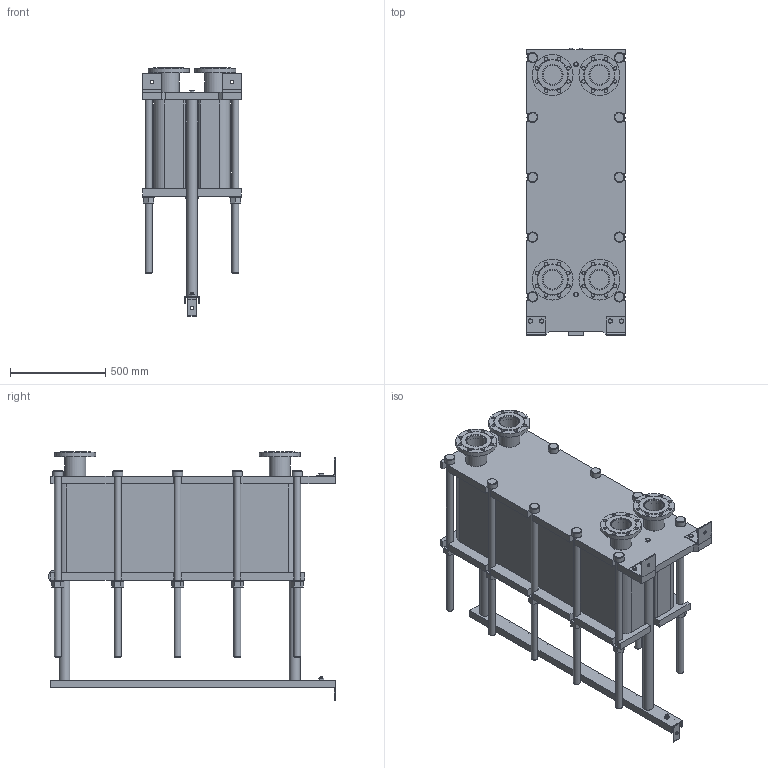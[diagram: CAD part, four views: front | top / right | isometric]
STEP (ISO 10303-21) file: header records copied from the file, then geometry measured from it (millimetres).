
FILE_DESCRIPTION(/* description */ (''),/* implementation_level */ '2;1');
FILE_NAME(/* name */ 'C:\Users\zhuro\Desktop\ENCO\TO\ЭН-04\ЭН-0,5-04-135-1.stp',/* time_stamp */ '2022-06-06T10:57:31+03:00',/* author */ ('zhuro'),/* organization */ (''),/* preprocessor_version */ 'ST-DEVELOPER v18.1',/* originating_system */ 'Autodesk Inventor 2022',/* authorisation */ '');
FILE_SCHEMA (('AUTOMOTIVE_DESIGN { 1 0 10303 214 3 1 1 }'));
Length unit declared in the file: millimetre
Products named in the file (1): ЭН-0,5-04-135-1
Bounding box: 520 x 1510 x 1307.5 mm (x, y, z)
Volume: 305851343.3 mm3; surface area: 9124915.3 mm2
Topology: 45 solids, 45 shells, 668 faces, 1611 edges, 1048 vertices
Faces by surface type: plane 457, cylinder 166, cone 39, torus 6
Full cylindrical faces by diameter (mm): 8 x4, 10 x2, 16 x8, 18 x35, 36 x25, 40 x2, 42 x1, 45 x4, 54 x10, 57 x2, 60 x10, 68 x2, 100 x4, 110 x8, 215 x4
Entity records: 23607 total; most frequent: CARTESIAN_POINT 7348, DIRECTION 3371, ORIENTED_EDGE 3142, EDGE_CURVE 1571, AXIS2_PLACEMENT_3D 1199, VERTEX_POINT 1044, LINE 973, VECTOR 973
